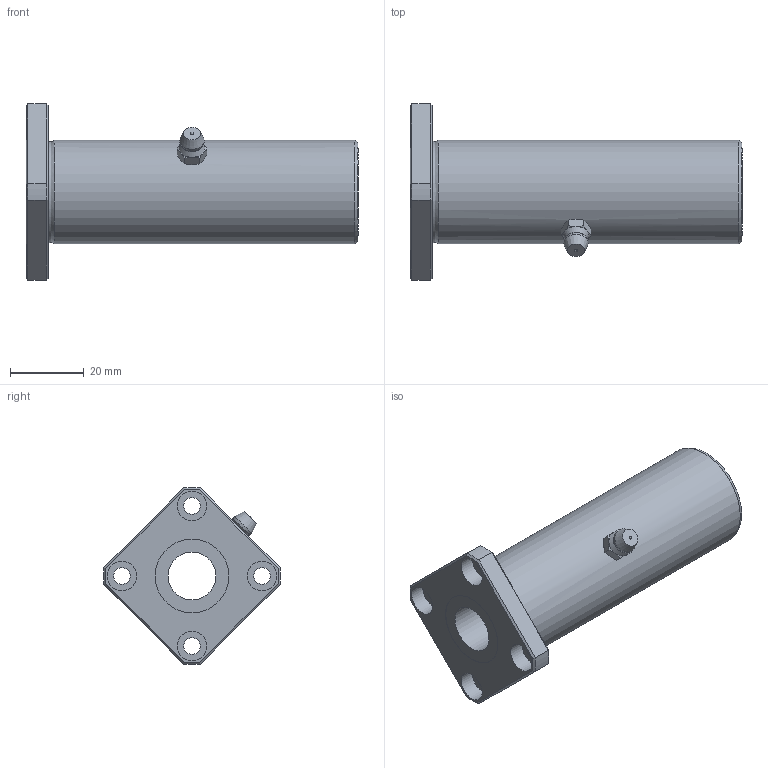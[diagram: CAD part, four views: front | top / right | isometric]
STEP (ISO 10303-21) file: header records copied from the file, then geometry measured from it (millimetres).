
FILE_DESCRIPTION((''),'2;1');
FILE_NAME('D:\製品 (図面)\カタログ用3D\リニアベアリング関連\STEP形式\LFLK\LFLK13.stp','2010-06-04T09:08:13',('Tsuchiya'),(''),'Autodesk Inventor 10','Autodesk Inventor 10','');
FILE_SCHEMA(('AUTOMOTIVE_DESIGN { 1 0 10303 214 1 1 1 1 }'));
Length unit declared in the file: millimetre
Products named in the file (1): LFLK13
Bounding box: 90 x 47.98 x 47.98 mm (x, y, z)
Volume: 47045.2 mm3; surface area: 14847.1 mm2
Topology: 1 solids, 1 shells, 76 faces, 159 edges, 94 vertices
Faces by surface type: plane 31, cone 21, cylinder 18, bspline 3, sphere 2, torus 1
Full cylindrical faces by diameter (mm): 4.5 x4, 8 x4, 13 x1, 20 x2, 28 x1
Entity records: 2171 total; most frequent: CARTESIAN_POINT 657, DIRECTION 310, ORIENTED_EDGE 280, EDGE_CURVE 140, AXIS2_PLACEMENT_3D 138, EDGE_LOOP 114, VERTEX_POINT 92, FACE_OUTER_BOUND 76
